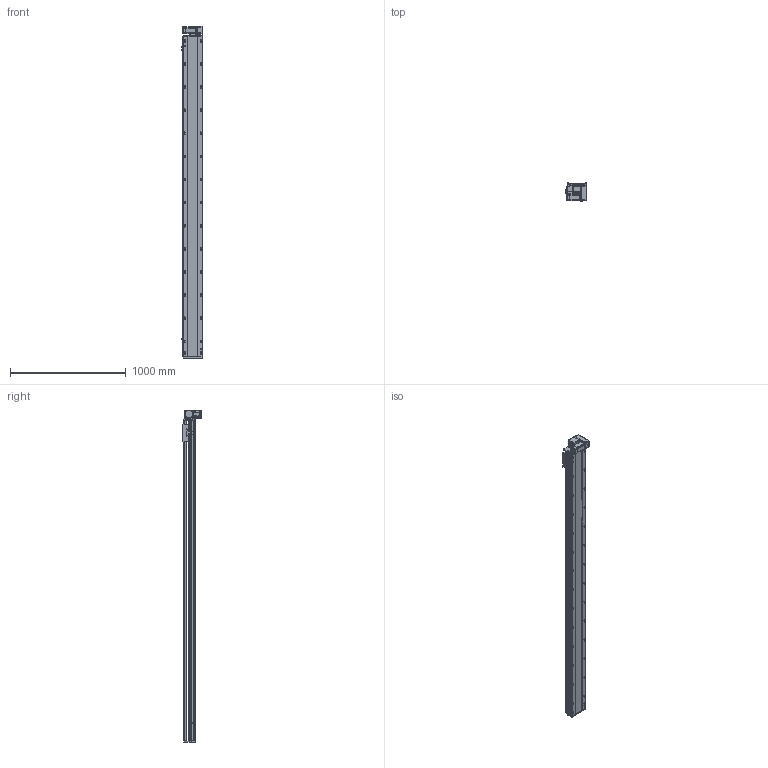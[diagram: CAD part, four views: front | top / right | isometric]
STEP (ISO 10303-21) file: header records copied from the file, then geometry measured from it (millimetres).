
FILE_DESCRIPTION (( 'STEP AP214' ), '1' );
FILE_NAME ('RTB17S-XX-2500-RM-M40-C4.STEP', '2025-12-11T08:30:01', ( '' ), ( '' ), 'SwSTEP 2.0', 'SolidWorks 2018', '' );
FILE_SCHEMA (( 'AUTOMOTIVE_DESIGN' ));
Length unit declared in the file: millimetre
Products named in the file (14): 400W侜督萇儂^RTB17S-XX-XX-RM-M40-C4; RTB17S-L-014-T20--々湍釱^RTB17S-RM-々湍釱蚾饜-400W_RTB17S-XX-XX-RM-M40-C4; RTB17S-XX-2500-RM-M40-C4; RTB17S-RM-々湍釱蚾饜-400W^RTB17S-XX-XX-RM-M40-C4; RTB14-L-018P^RTB17S-RM-々湍釱蚾饜-400W_RTB17S-XX-XX-RM-M40-C4; RTB14-L-017P^RTB17S-RM-々湍釱蚾饜-400W_RTB17S-XX-XX-RM-M40-C4; RTB14-L-005P--轴承塑胶压盖^RTB17S-RM-皮带座装配-400W_RTB17S-XX-XX-RM-M40-C4; RTH13-BL-012覜茼え俋离^RTB17S-XX-XX-RM-M40-C4; RTB17S-L-004佪裝蹟譫蟀諉釱^RTB17S-XX-XX-RM-M40-C4; RTB17S-L-001耜醱啣^RTB17S-XX-XX-RM-M40-C4; RTB17-R-011菁釱^RTB17S-XX-XX-RM-M40-C4; OMRON EE-SX672 传感器^RTB17S-XX-XX-RM-M40-C4; RTB17S-L-007奻裔^RTB17S-XX-XX-RM-M40-C4; RTB14-L-008-M20--萇儂啣^RTB17S-RM-々湍釱蚾饜-400W_RTB17S-XX-XX-RM-M40-C4
Assembly tree (16 placements, depth 3):
  RTB17S-XX-2500-RM-M40-C4
    RTB17-R-011菁釱^RTB17S-XX-XX-RM-M40-C4
    RTB17S-L-007奻裔^RTB17S-XX-XX-RM-M40-C4
    OMRON EE-SX672 传感器^RTB17S-XX-XX-RM-M40-C4  x3
    RTB17S-L-001耜醱啣^RTB17S-XX-XX-RM-M40-C4
    400W侜督萇儂^RTB17S-XX-XX-RM-M40-C4
    RTB17S-L-004佪裝蹟譫蟀諉釱^RTB17S-XX-XX-RM-M40-C4
    RTH13-BL-012覜茼え俋离^RTB17S-XX-XX-RM-M40-C4
    RTB17S-RM-々湍釱蚾饜-400W^RTB17S-XX-XX-RM-M40-C4
      RTB17S-L-014-T20--々湍釱^RTB17S-RM-々湍釱蚾饜-400W_RTB17S-XX-XX-RM-M40-C4
      RTB14-L-005P--轴承塑胶压盖^RTB17S-RM-皮带座装配-400W_RTB17S-XX-XX-RM-M40-C4
      RTB14-L-008-M20--萇儂啣^RTB17S-RM-々湍釱蚾饜-400W_RTB17S-XX-XX-RM-M40-C4
      RTB14-L-017P^RTB17S-RM-々湍釱蚾饜-400W_RTB17S-XX-XX-RM-M40-C4  x2
      RTB14-L-018P^RTB17S-RM-々湍釱蚾饜-400W_RTB17S-XX-XX-RM-M40-C4
Bounding box: 183.5 x 156.5 x 2872.5 mm (x, y, z)
Volume: 24604101.7 mm3; surface area: 2832901.2 mm2
Topology: 15 solids, 15 shells, 2333 faces, 6519 edges, 4257 vertices
Faces by surface type: plane 1084, cylinder 801, bspline 301, cone 139, torus 8
Entity records: 68777 total; most frequent: CARTESIAN_POINT 19524, ORIENTED_EDGE 9882, DIRECTION 9116, EDGE_CURVE 4941, VERTEX_POINT 3245, AXIS2_PLACEMENT_3D 3175, LINE 2766, VECTOR 2766
